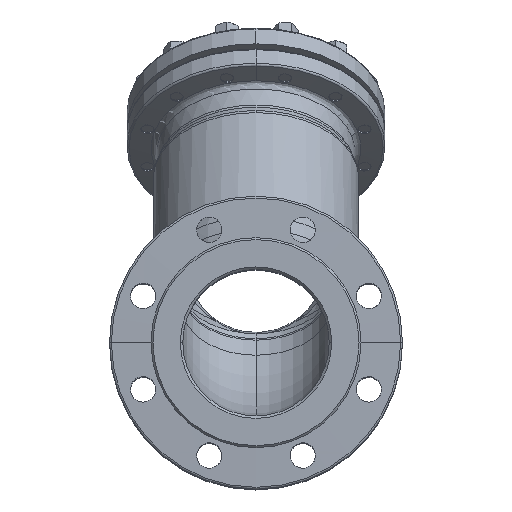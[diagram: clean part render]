
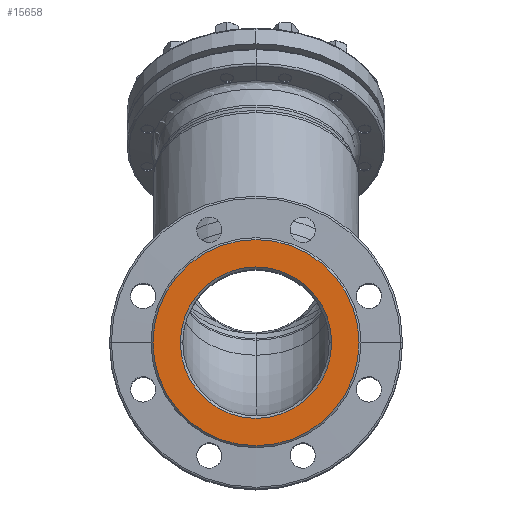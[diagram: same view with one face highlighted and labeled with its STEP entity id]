
A CAD part, top view. The second image highlights one B-rep face of the part: STEP entity #15658.
In plain terms, the highlighted planar face has unit normal (0, 0, 1).
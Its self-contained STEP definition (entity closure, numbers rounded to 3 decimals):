
#3913 = FACE_OUTER_BOUND ( 'NONE', #34416, .T. ) ;
#3918 = FACE_BOUND ( 'NONE', #34420, .T. ) ;
#4141 = CIRCLE ( 'NONE', #37176, 105.5 ) ;
#7195 = CARTESIAN_POINT ( 'NONE',  ( 0., 0., 0. ) ) ;
#7202 = DIRECTION ( 'NONE',  ( 0., 0., -1. ) ) ;
#7203 = DIRECTION ( 'NONE',  ( 1., 0., 0. ) ) ;
#7618 = CARTESIAN_POINT ( 'NONE',  ( 0., 0., 0. ) ) ;
#7619 = PLANE ( 'NONE',  #39839 ) ;
#7627 = DIRECTION ( 'NONE',  ( 0., 0., 1. ) ) ;
#7628 = DIRECTION ( 'NONE',  ( 1., 0., 0. ) ) ;
#9007 = EDGE_CURVE ( 'NONE', #31235, #31233, #29246, .T. ) ;
#9012 = EDGE_CURVE ( 'NONE', #31031, #31033, #29250, .T. ) ;
#9525 = EDGE_CURVE ( 'NONE', #31033, #31031, #13084, .T. ) ;
#13084 = CIRCLE ( 'NONE', #39591, 77.5 ) ;
#15658 = ADVANCED_FACE ( 'NONE', ( #3918, #3913 ), #7619, .T. ) ;
#29246 = CIRCLE ( 'NONE', #39337, 105.5 ) ;
#29250 = CIRCLE ( 'NONE', #39344, 77.5 ) ;
#31031 = VERTEX_POINT ( 'NONE', #41566 ) ;
#31033 = VERTEX_POINT ( 'NONE', #41567 ) ;
#31233 = VERTEX_POINT ( 'NONE', #41668 ) ;
#31235 = VERTEX_POINT ( 'NONE', #41669 ) ;
#34416 = EDGE_LOOP ( 'NONE', ( #34906, #34907 ) ) ;
#34420 = EDGE_LOOP ( 'NONE', ( #34904, #34905 ) ) ;
#34904 = ORIENTED_EDGE ( 'NONE', *, *, #9525, .T. ) ;
#34905 = ORIENTED_EDGE ( 'NONE', *, *, #9012, .T. ) ;
#34906 = ORIENTED_EDGE ( 'NONE', *, *, #9007, .T. ) ;
#34907 = ORIENTED_EDGE ( 'NONE', *, *, #43208, .T. ) ;
#36196 = CARTESIAN_POINT ( 'NONE',  ( 0., 0., 0. ) ) ;
#36197 = DIRECTION ( 'NONE',  ( 0., 0., 1. ) ) ;
#36198 = DIRECTION ( 'NONE',  ( 1., 0., 0. ) ) ;
#36236 = CARTESIAN_POINT ( 'NONE',  ( 0., 0., 0. ) ) ;
#36237 = DIRECTION ( 'NONE',  ( 0., 0., -1. ) ) ;
#36238 = DIRECTION ( 'NONE',  ( 1., 0., 0. ) ) ;
#37176 = AXIS2_PLACEMENT_3D ( 'NONE', #42986, #42990, #42991 ) ;
#39337 = AXIS2_PLACEMENT_3D ( 'NONE', #36196, #36197, #36198 ) ;
#39344 = AXIS2_PLACEMENT_3D ( 'NONE', #36236, #36237, #36238 ) ;
#39591 = AXIS2_PLACEMENT_3D ( 'NONE', #7195, #7202, #7203 ) ;
#39839 = AXIS2_PLACEMENT_3D ( 'NONE', #7618, #7627, #7628 ) ;
#41566 = CARTESIAN_POINT ( 'NONE',  ( -77.5, 0., 0. ) ) ;
#41567 = CARTESIAN_POINT ( 'NONE',  ( 77.5, 0., 0. ) ) ;
#41668 = CARTESIAN_POINT ( 'NONE',  ( 105.5, 0., 0. ) ) ;
#41669 = CARTESIAN_POINT ( 'NONE',  ( -105.5, 0., 0. ) ) ;
#42986 = CARTESIAN_POINT ( 'NONE',  ( 0., 0., 0. ) ) ;
#42990 = DIRECTION ( 'NONE',  ( 0., 0., 1. ) ) ;
#42991 = DIRECTION ( 'NONE',  ( 1., 0., 0. ) ) ;
#43208 = EDGE_CURVE ( 'NONE', #31233, #31235, #4141, .T. ) ;
